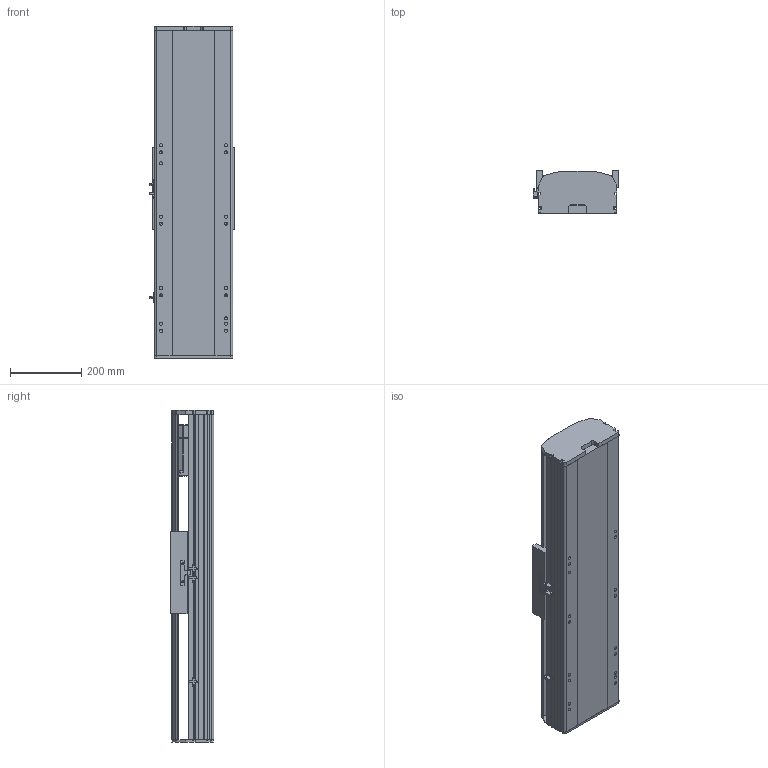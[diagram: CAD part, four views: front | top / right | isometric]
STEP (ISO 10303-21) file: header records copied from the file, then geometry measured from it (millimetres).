
FILE_DESCRIPTION (( 'STEP AP214' ), '1' );
FILE_NAME ('RTH22-XX-300-B-M75B-C4.STEP', '2025-10-24T10:06:15', ( 'Microsoft' ), ( 'Microsoft' ), 'SwSTEP 2.0', 'SolidWorks 2018', '' );
FILE_SCHEMA (( 'AUTOMOTIVE_DESIGN' ));
Length unit declared in the file: millimetre
Products named in the file (9): N_RTH22-GY-013外置感应片^RTH22-XX-XX-B-M75B-C4; N_RTH22-GY-001耜裔^RTH22-XX-XX-B-M75B-C4; RTH22-XX-300-B-M75B-C4; N_RTH22-B-007B奻裔^RTH22-XX-XX-B-M75B-C4; N_RTH22-E-004-SFS25賑釱^RTH22-XX-XX-B-M75B-C4; N_RTH22-B008萇儂啣^RTH22-XX-XX-B-M75B-C4; N_750W萇儂^RTH22-XX-XX-B-M75B-C4; N_RTH22-B-011B菁釱^RTH22-XX-XX-B-M75B-C4; N_OMRON EE-SX672 传感器^RTH22-XX-XX-B-M75B-C4
Assembly tree (10 placements, depth 2):
  RTH22-XX-300-B-M75B-C4
    N_RTH22-B-011B菁釱^RTH22-XX-XX-B-M75B-C4
    N_RTH22-GY-001耜裔^RTH22-XX-XX-B-M75B-C4
    N_750W萇儂^RTH22-XX-XX-B-M75B-C4
    N_RTH22-B008萇儂啣^RTH22-XX-XX-B-M75B-C4
    N_RTH22-B-007B奻裔^RTH22-XX-XX-B-M75B-C4
    N_OMRON EE-SX672 传感器^RTH22-XX-XX-B-M75B-C4  x3
    N_RTH22-GY-013外置感应片^RTH22-XX-XX-B-M75B-C4
    N_RTH22-E-004-SFS25賑釱^RTH22-XX-XX-B-M75B-C4
Bounding box: 238.5 x 122 x 930 mm (x, y, z)
Volume: 13775424.9 mm3; surface area: 1449587.9 mm2
Topology: 10 solids, 10 shells, 1479 faces, 4050 edges, 2623 vertices
Faces by surface type: plane 748, cylinder 406, bspline 279, cone 46
Entity records: 36117 total; most frequent: CARTESIAN_POINT 11401, ORIENTED_EDGE 5100, DIRECTION 4728, EDGE_CURVE 2550, VERTEX_POINT 1659, VECTOR 1596, LINE 1596, AXIS2_PLACEMENT_3D 1566
